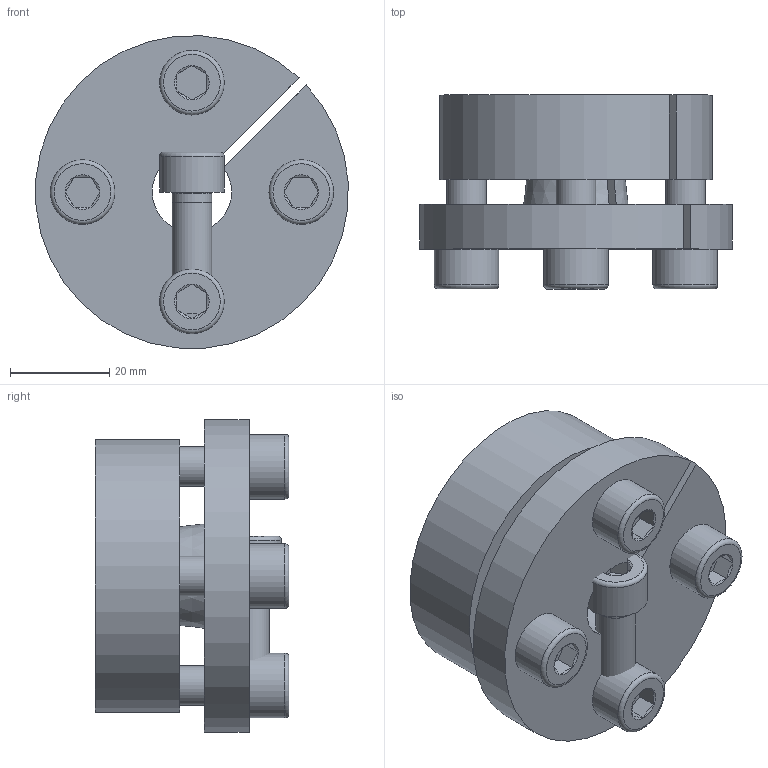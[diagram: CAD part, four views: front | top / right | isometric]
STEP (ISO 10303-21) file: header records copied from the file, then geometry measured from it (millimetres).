
FILE_DESCRIPTION( ( 'Unknown' ), '1' );
FILE_NAME( 'C:/Dokumente und Einstellungen/Sven/Desktop/15/KBS 15 - 16 x 55.stp', 'Unknown', ( 'Unknown' ), ( 'Unknown' ), 'XStep 1.0', 'Unknown', ' ' );
FILE_SCHEMA( ( 'automotive_design' ) );
Length unit declared in the file: millimetre
Products named in the file (3): Assem1; ISO EN DIN 4762 M8x25_0; KBS 15 - 16 x 55_0
Bounding box: 62.84 x 39 x 62.84 mm (x, y, z)
Volume: 127058.1 mm3; surface area: 44546.2 mm2
Topology: 7 solids, 7 shells, 165 faces, 342 edges, 211 vertices
Faces by surface type: plane 74, cylinder 42, cone 39, torus 10
Full cylindrical faces by diameter (mm): 6.647 x8, 7 x5, 8 x10, 9 x8, 13 x5
Entity records: 1434 total; most frequent: CARTESIAN_POINT 233, DIRECTION 224, ORIENTED_EDGE 162, AXIS2_PLACEMENT_3D 98, EDGE_CURVE 81, EDGE_LOOP 80, FACE_OUTER_BOUND 59, VERTEX_POINT 59
